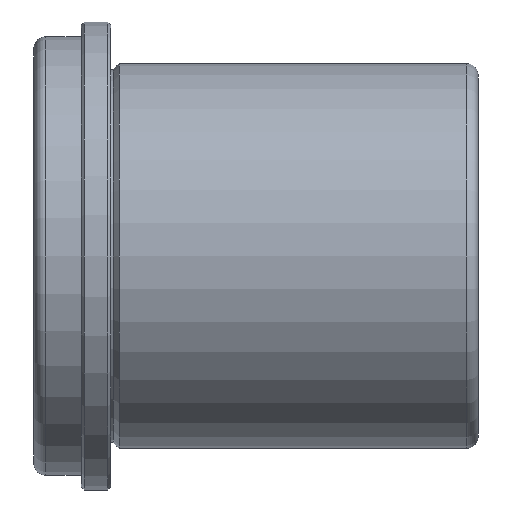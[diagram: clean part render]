
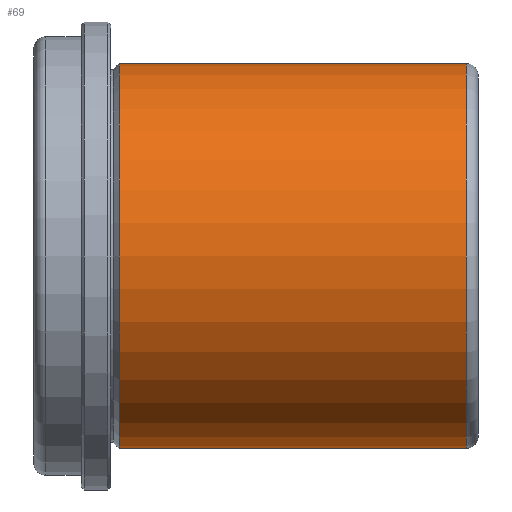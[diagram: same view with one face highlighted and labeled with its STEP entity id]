
A CAD part, front view. The second image highlights one B-rep face of the part: STEP entity #69.
In plain terms, the highlighted cylindrical face has radius 32.5 mm (diameter 65 mm), a full revolution.
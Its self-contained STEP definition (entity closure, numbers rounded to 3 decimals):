
#69 = ADVANCED_FACE( '', ( #151, #152, #153 ), #154, .T. );
#151 = FACE_OUTER_BOUND( '', #236, .T. );
#152 = FACE_BOUND( '', #237, .T. );
#153 = FACE_OUTER_BOUND( '', #238, .T. );
#154 = CYLINDRICAL_SURFACE( '', #239, 32.5 );
#236 = EDGE_LOOP( '', ( #341 ) );
#237 = EDGE_LOOP( '', ( #342 ) );
#238 = EDGE_LOOP( '', ( #343 ) );
#239 = AXIS2_PLACEMENT_3D( '', #344, #345, #346 );
#341 = ORIENTED_EDGE( '', *, *, #409, .T. );
#342 = ORIENTED_EDGE( '', *, *, #402, .T. );
#343 = ORIENTED_EDGE( '', *, *, #410, .F. );
#344 = CARTESIAN_POINT( '', ( 62., 0., 0. ) );
#345 = DIRECTION( '', ( -1., 0., 0. ) );
#346 = DIRECTION( '', ( 0., 0., -1. ) );
#402 = EDGE_CURVE( '', #456, #456, #457, .T. );
#409 = EDGE_CURVE( '', #466, #466, #467, .T. );
#410 = EDGE_CURVE( '', #468, #468, #469, .T. );
#456 = VERTEX_POINT( '', #580 );
#457 = B_SPLINE_CURVE_WITH_KNOTS( '', 3, ( #581, #582, #583, #584, #585, #586, #587, #588, #589, #590, #591, #592, #593, #594, #595, #596, #597, #598, #599, #600, #601, #602, #603, #604, #605, #606, #607, #608, #609, #610, #611, #612, #613, #614, #615, #616, #617, #618, #619, #620, #621, #622, #623, #624, #625, #626, #627, #628, #629, #630, #631, #632, #633, #634, #635, #636, #637, #638, #639, #640, #641, #642, #643, #644, #645, #646 ), .UNSPECIFIED., .T., .F., ( 2, 2, 2, 2, 2, 2, 2, 2, 2, 2, 2, 2, 2, 2, 2, 2, 2, 2, 2, 2, 2, 2, 2, 2, 2, 2, 2, 2, 2, 2, 2, 2, 2, 2, 2 ), ( -0.001, 0., 0.001, 0.002, 0.002, 0.003, 0.004, 0.005, 0.005, 0.006, 0.007, 0.008, 0.009, 0.009, 0.01, 0.011, 0.012, 0.013, 0.013, 0.014, 0.015, 0.016, 0.016, 0.017, 0.018, 0.019, 0.02, 0.02, 0.021, 0.022, 0.023, 0.023, 0.024, 0.025, 0.026 ), .UNSPECIFIED. );
#466 = VERTEX_POINT( '', #655 );
#467 = CIRCLE( '', #656, 32.5 );
#468 = VERTEX_POINT( '', #657 );
#469 = CIRCLE( '', #658, 32.5 );
#580 = CARTESIAN_POINT( '', ( 19., 32.253, -4. ) );
#581 = CARTESIAN_POINT( '', ( 18.735, 32.253, -4. ) );
#582 = CARTESIAN_POINT( '', ( 19.265, 32.253, -4. ) );
#583 = CARTESIAN_POINT( '', ( 19.525, 32.256, -3.974 ) );
#584 = CARTESIAN_POINT( '', ( 20.036, 32.269, -3.872 ) );
#585 = CARTESIAN_POINT( '', ( 20.29, 32.278, -3.795 ) );
#586 = CARTESIAN_POINT( '', ( 20.775, 32.301, -3.594 ) );
#587 = CARTESIAN_POINT( '', ( 21.004, 32.314, -3.472 ) );
#588 = CARTESIAN_POINT( '', ( 21.439, 32.344, -3.181 ) );
#589 = CARTESIAN_POINT( '', ( 21.644, 32.361, -3.012 ) );
#590 = CARTESIAN_POINT( '', ( 22.013, 32.393, -2.644 ) );
#591 = CARTESIAN_POINT( '', ( 22.179, 32.409, -2.443 ) );
#592 = CARTESIAN_POINT( '', ( 22.471, 32.439, -2.005 ) );
#593 = CARTESIAN_POINT( '', ( 22.595, 32.452, -1.773 ) );
#594 = CARTESIAN_POINT( '', ( 22.795, 32.475, -1.292 ) );
#595 = CARTESIAN_POINT( '', ( 22.872, 32.484, -1.039 ) );
#596 = CARTESIAN_POINT( '', ( 22.974, 32.497, -0.523 ) );
#597 = CARTESIAN_POINT( '', ( 23., 32.5, -0.263 ) );
#598 = CARTESIAN_POINT( '', ( 23., 32.5, 0.259 ) );
#599 = CARTESIAN_POINT( '', ( 22.974, 32.497, 0.524 ) );
#600 = CARTESIAN_POINT( '', ( 22.872, 32.484, 1.037 ) );
#601 = CARTESIAN_POINT( '', ( 22.796, 32.475, 1.287 ) );
#602 = CARTESIAN_POINT( '', ( 22.596, 32.453, 1.771 ) );
#603 = CARTESIAN_POINT( '', ( 22.471, 32.439, 2.005 ) );
#604 = CARTESIAN_POINT( '', ( 22.181, 32.409, 2.439 ) );
#605 = CARTESIAN_POINT( '', ( 22.016, 32.393, 2.641 ) );
#606 = CARTESIAN_POINT( '', ( 21.643, 32.36, 3.014 ) );
#607 = CARTESIAN_POINT( '', ( 21.441, 32.344, 3.179 ) );
#608 = CARTESIAN_POINT( '', ( 21.008, 32.315, 3.469 ) );
#609 = CARTESIAN_POINT( '', ( 20.774, 32.301, 3.594 ) );
#610 = CARTESIAN_POINT( '', ( 20.29, 32.278, 3.795 ) );
#611 = CARTESIAN_POINT( '', ( 20.041, 32.269, 3.871 ) );
#612 = CARTESIAN_POINT( '', ( 19.528, 32.256, 3.974 ) );
#613 = CARTESIAN_POINT( '', ( 19.263, 32.253, 4. ) );
#614 = CARTESIAN_POINT( '', ( 18.74, 32.253, 4. ) );
#615 = CARTESIAN_POINT( '', ( 18.481, 32.256, 3.975 ) );
#616 = CARTESIAN_POINT( '', ( 17.964, 32.269, 3.872 ) );
#617 = CARTESIAN_POINT( '', ( 17.712, 32.278, 3.796 ) );
#618 = CARTESIAN_POINT( '', ( 17.23, 32.301, 3.597 ) );
#619 = CARTESIAN_POINT( '', ( 16.997, 32.314, 3.473 ) );
#620 = CARTESIAN_POINT( '', ( 16.56, 32.344, 3.181 ) );
#621 = CARTESIAN_POINT( '', ( 16.359, 32.36, 3.015 ) );
#622 = CARTESIAN_POINT( '', ( 15.99, 32.393, 2.647 ) );
#623 = CARTESIAN_POINT( '', ( 15.821, 32.409, 2.441 ) );
#624 = CARTESIAN_POINT( '', ( 15.53, 32.439, 2.007 ) );
#625 = CARTESIAN_POINT( '', ( 15.407, 32.452, 1.778 ) );
#626 = CARTESIAN_POINT( '', ( 15.206, 32.475, 1.294 ) );
#627 = CARTESIAN_POINT( '', ( 15.129, 32.484, 1.04 ) );
#628 = CARTESIAN_POINT( '', ( 15.026, 32.497, 0.528 ) );
#629 = CARTESIAN_POINT( '', ( 15., 32.5, 0.268 ) );
#630 = CARTESIAN_POINT( '', ( 15., 32.5, -0.261 ) );
#631 = CARTESIAN_POINT( '', ( 15.026, 32.497, -0.521 ) );
#632 = CARTESIAN_POINT( '', ( 15.127, 32.485, -1.033 ) );
#633 = CARTESIAN_POINT( '', ( 15.204, 32.475, -1.287 ) );
#634 = CARTESIAN_POINT( '', ( 15.404, 32.453, -1.771 ) );
#635 = CARTESIAN_POINT( '', ( 15.527, 32.439, -2.001 ) );
#636 = CARTESIAN_POINT( '', ( 15.817, 32.409, -2.436 ) );
#637 = CARTESIAN_POINT( '', ( 15.985, 32.393, -2.642 ) );
#638 = CARTESIAN_POINT( '', ( 16.354, 32.361, -3.011 ) );
#639 = CARTESIAN_POINT( '', ( 16.555, 32.345, -3.176 ) );
#640 = CARTESIAN_POINT( '', ( 16.992, 32.315, -3.469 ) );
#641 = CARTESIAN_POINT( '', ( 17.224, 32.301, -3.593 ) );
#642 = CARTESIAN_POINT( '', ( 17.705, 32.278, -3.793 ) );
#643 = CARTESIAN_POINT( '', ( 17.957, 32.269, -3.871 ) );
#644 = CARTESIAN_POINT( '', ( 18.474, 32.256, -3.974 ) );
#645 = CARTESIAN_POINT( '', ( 18.735, 32.253, -4. ) );
#646 = CARTESIAN_POINT( '', ( 19.265, 32.253, -4. ) );
#655 = CARTESIAN_POINT( '', ( 1.414, 0., -32.5 ) );
#656 = AXIS2_PLACEMENT_3D( '', #712, #713, #714 );
#657 = CARTESIAN_POINT( '', ( 60., 0., -32.5 ) );
#658 = AXIS2_PLACEMENT_3D( '', #715, #716, #717 );
#712 = CARTESIAN_POINT( '', ( 1.414, 0., 0. ) );
#713 = DIRECTION( '', ( 1., 0., 0. ) );
#714 = DIRECTION( '', ( 0., 0., -1. ) );
#715 = CARTESIAN_POINT( '', ( 60., 0., 0. ) );
#716 = DIRECTION( '', ( 1., 0., 0. ) );
#717 = DIRECTION( '', ( 0., 0., -1. ) );
